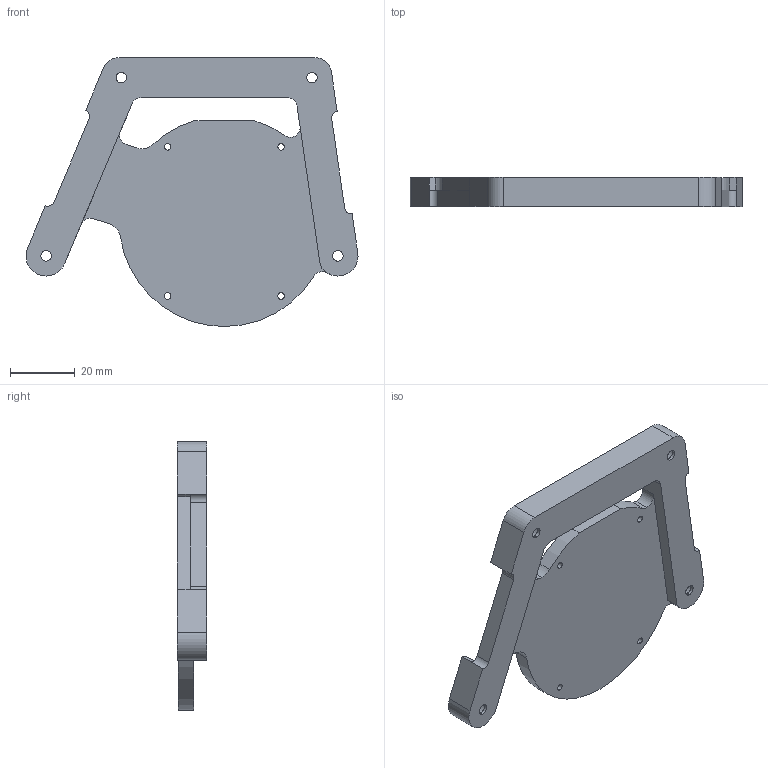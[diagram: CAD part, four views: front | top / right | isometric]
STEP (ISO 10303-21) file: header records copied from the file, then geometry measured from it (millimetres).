
FILE_DESCRIPTION (( 'STEP AP214' ), '1' );
FILE_NAME ('Chip Holder.STEP', '2026-08-10T21:57:04', ( '' ), ( '' ), 'SwSTEP 2.0', 'SolidWorks 2024', '' );
FILE_SCHEMA (( 'AUTOMOTIVE_DESIGN' ));
Length unit declared in the file: millimetre
Products named in the file (1): Chip Holder
Bounding box: 102.38 x 9 x 82.96 mm (x, y, z)
Volume: 28054.7 mm3; surface area: 16788 mm2
Topology: 1 solids, 1 shells, 120 faces, 314 edges, 208 vertices
Faces by surface type: cylinder 76, plane 44
Entity records: 3819 total; most frequent: DIRECTION 710, CARTESIAN_POINT 643, ORIENTED_EDGE 628, EDGE_CURVE 314, AXIS2_PLACEMENT_3D 275, VERTEX_POINT 208, LINE 160, VECTOR 160
